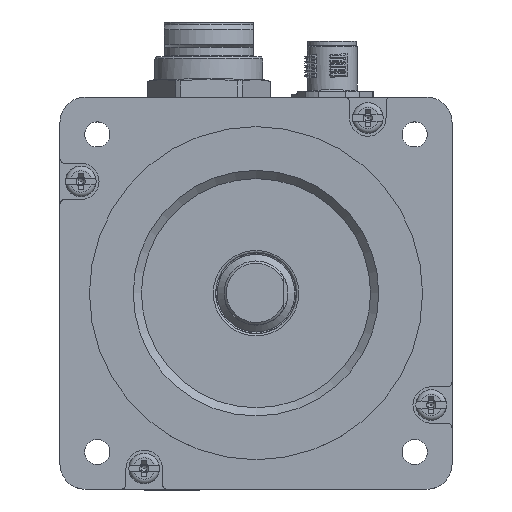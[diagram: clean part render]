
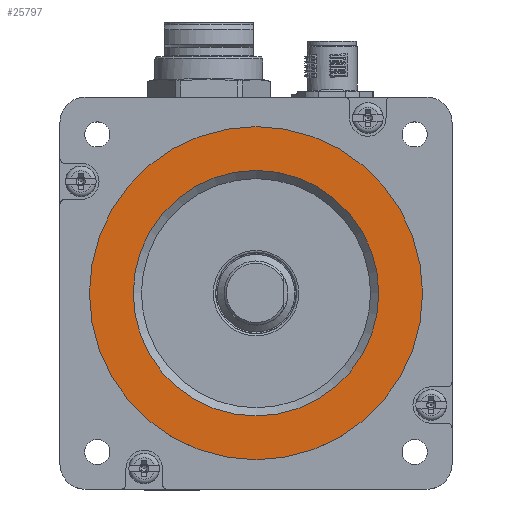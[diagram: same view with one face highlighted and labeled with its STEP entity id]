
A CAD part, top view. The second image highlights one B-rep face of the part: STEP entity #25797.
In plain terms, the highlighted planar face has unit normal (0, 0, 1).
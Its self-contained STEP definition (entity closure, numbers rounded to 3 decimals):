
#1987 = CARTESIAN_POINT ( 'NONE',  ( -12.45, 42.95, 0. ) ) ;
#2471 = DIRECTION ( 'NONE',  ( 1., 0., 0. ) ) ;
#3085 = PLANE ( 'NONE',  #3152 ) ;
#3152 = AXIS2_PLACEMENT_3D ( 'NONE', #31884, #50923, #60594 ) ;
#6353 = VERTEX_POINT ( 'NONE', #1987 ) ;
#7120 = VERTEX_POINT ( 'NONE', #46253 ) ;
#12462 = CARTESIAN_POINT ( 'NONE',  ( -48.95, 42.95, 0. ) ) ;
#19052 = AXIS2_PLACEMENT_3D ( 'NONE', #52616, #33906, #43591 ) ;
#25797 = ADVANCED_FACE ( 'NONE', ( #45989, #40659 ), #3085, .T. ) ;
#25999 = AXIS2_PLACEMENT_3D ( 'NONE', #12462, #54365, #2471 ) ;
#26353 = EDGE_CURVE ( 'NONE', #6353, #6353, #59000, .T. ) ;
#27987 = CIRCLE ( 'NONE', #19052, 26.9 ) ;
#31884 = CARTESIAN_POINT ( 'NONE',  ( -86.4, 5.5, 0. ) ) ;
#33906 = DIRECTION ( 'NONE',  ( 0., 0., -1. ) ) ;
#40393 = EDGE_LOOP ( 'NONE', ( #41123 ) ) ;
#40659 = FACE_OUTER_BOUND ( 'NONE', #40393, .T. ) ;
#41123 = ORIENTED_EDGE ( 'NONE', *, *, #26353, .T. ) ;
#42840 = EDGE_LOOP ( 'NONE', ( #61020 ) ) ;
#43591 = DIRECTION ( 'NONE',  ( 1., 0., 0. ) ) ;
#45989 = FACE_BOUND ( 'NONE', #42840, .T. ) ;
#46253 = CARTESIAN_POINT ( 'NONE',  ( -22.05, 42.95, 0. ) ) ;
#50923 = DIRECTION ( 'NONE',  ( 0., 0., 1. ) ) ;
#51604 = EDGE_CURVE ( 'NONE', #7120, #7120, #27987, .T. ) ;
#52616 = CARTESIAN_POINT ( 'NONE',  ( -48.95, 42.95, 0. ) ) ;
#54365 = DIRECTION ( 'NONE',  ( 0., 0., 1. ) ) ;
#59000 = CIRCLE ( 'NONE', #25999, 36.5 ) ;
#60594 = DIRECTION ( 'NONE',  ( 1., 0., 0. ) ) ;
#61020 = ORIENTED_EDGE ( 'NONE', *, *, #51604, .T. ) ;
